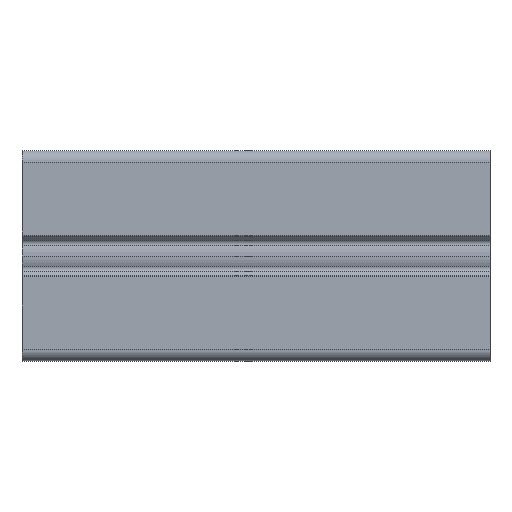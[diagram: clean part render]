
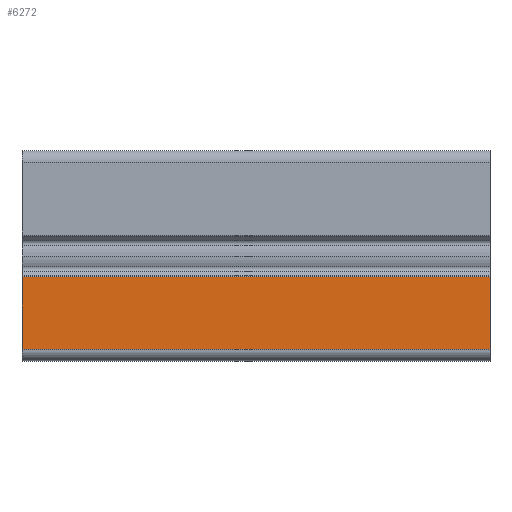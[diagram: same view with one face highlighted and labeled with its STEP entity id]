
A CAD part, top view. The second image highlights one B-rep face of the part: STEP entity #6272.
In plain terms, the highlighted planar face has unit normal (0, 0, 1).
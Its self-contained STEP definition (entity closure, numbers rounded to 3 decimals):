
#142 = FACE_OUTER_BOUND ( 'NONE', #847, .T. ) ;
#362 = PLANE ( 'NONE',  #5560 ) ;
#649 = VERTEX_POINT ( 'NONE', #1538 ) ;
#698 = ORIENTED_EDGE ( 'NONE', *, *, #5132, .F. ) ;
#715 = LINE ( 'NONE', #911, #5720 ) ;
#847 = EDGE_LOOP ( 'NONE', ( #1726, #4855, #698, #1027 ) ) ;
#911 = CARTESIAN_POINT ( 'NONE',  ( 59.184, 34.898, 22.5 ) ) ;
#958 = VERTEX_POINT ( 'NONE', #3768 ) ;
#1027 = ORIENTED_EDGE ( 'NONE', *, *, #3678, .T. ) ;
#1538 = CARTESIAN_POINT ( 'NONE',  ( 59.184, 50.447, 22.5 ) ) ;
#1553 = DIRECTION ( 'NONE',  ( 0., -1., 0. ) ) ;
#1726 = ORIENTED_EDGE ( 'NONE', *, *, #2092, .T. ) ;
#1892 = VECTOR ( 'NONE', #3686, 1000. ) ;
#1897 = DIRECTION ( 'NONE',  ( 0., 0., -1. ) ) ;
#2092 = EDGE_CURVE ( 'NONE', #2973, #958, #5539, .T. ) ;
#2324 = CARTESIAN_POINT ( 'NONE',  ( -40.816, 50.447, 22.5 ) ) ;
#2460 = DIRECTION ( 'NONE',  ( 0., -1., 0. ) ) ;
#2643 = CARTESIAN_POINT ( 'NONE',  ( 59.184, 34.898, 22.5 ) ) ;
#2901 = CARTESIAN_POINT ( 'NONE',  ( 59.184, 34.898, 22.5 ) ) ;
#2973 = VERTEX_POINT ( 'NONE', #2324 ) ;
#3171 = VECTOR ( 'NONE', #5604, 1000. ) ;
#3553 = CARTESIAN_POINT ( 'NONE',  ( -40.816, 34.898, 22.5 ) ) ;
#3627 = EDGE_CURVE ( 'NONE', #4036, #958, #5349, .T. ) ;
#3678 = EDGE_CURVE ( 'NONE', #649, #2973, #5977, .T. ) ;
#3686 = DIRECTION ( 'NONE',  ( -1., 0., 0. ) ) ;
#3768 = CARTESIAN_POINT ( 'NONE',  ( -40.816, 34.898, 22.5 ) ) ;
#4036 = VERTEX_POINT ( 'NONE', #4351 ) ;
#4351 = CARTESIAN_POINT ( 'NONE',  ( 59.184, 34.898, 22.5 ) ) ;
#4819 = DIRECTION ( 'NONE',  ( -1., 0., 0. ) ) ;
#4855 = ORIENTED_EDGE ( 'NONE', *, *, #3627, .F. ) ;
#5132 = EDGE_CURVE ( 'NONE', #649, #4036, #715, .T. ) ;
#5349 = LINE ( 'NONE', #2643, #3171 ) ;
#5539 = LINE ( 'NONE', #3553, #5837 ) ;
#5560 = AXIS2_PLACEMENT_3D ( 'NONE', #2901, #1897, #4819 ) ;
#5604 = DIRECTION ( 'NONE',  ( -1., 0., 0. ) ) ;
#5720 = VECTOR ( 'NONE', #2460, 1000. ) ;
#5743 = CARTESIAN_POINT ( 'NONE',  ( 59.184, 50.447, 22.5 ) ) ;
#5837 = VECTOR ( 'NONE', #1553, 1000. ) ;
#5977 = LINE ( 'NONE', #5743, #1892 ) ;
#6272 = ADVANCED_FACE ( 'NONE', ( #142 ), #362, .F. ) ;
